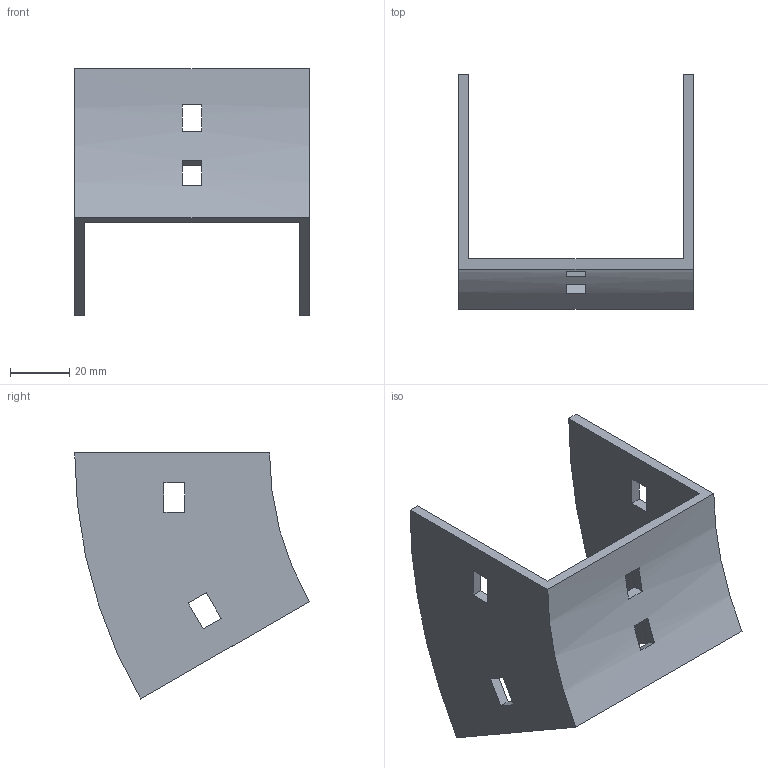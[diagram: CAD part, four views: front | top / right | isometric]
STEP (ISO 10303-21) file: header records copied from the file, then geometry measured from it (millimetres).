
FILE_DESCRIPTION (( 'STEP AP214' ), '1' );
FILE_NAME ('35B1H075.step', '2025-02-21T09:25:47', ( '' ), ( '' ), 'SwSTEP 2.0', 'SolidWorks 2023', '' );
FILE_SCHEMA (( 'AUTOMOTIVE_DESIGN' ));
Length unit declared in the file: millimetre
Products named in the file (1): 35B1H075
Bounding box: 79 x 78.9 x 82.75 mm (x, y, z)
Volume: 43899.7 mm3; surface area: 27802.8 mm2
Topology: 1 solids, 1 shells, 34 faces, 96 edges, 64 vertices
Faces by surface type: plane 30, cylinder 4
Entity records: 1143 total; most frequent: CARTESIAN_POINT 195, ORIENTED_EDGE 192, DIRECTION 182, EDGE_CURVE 96, VECTOR 80, LINE 80, VERTEX_POINT 64, AXIS2_PLACEMENT_3D 51
